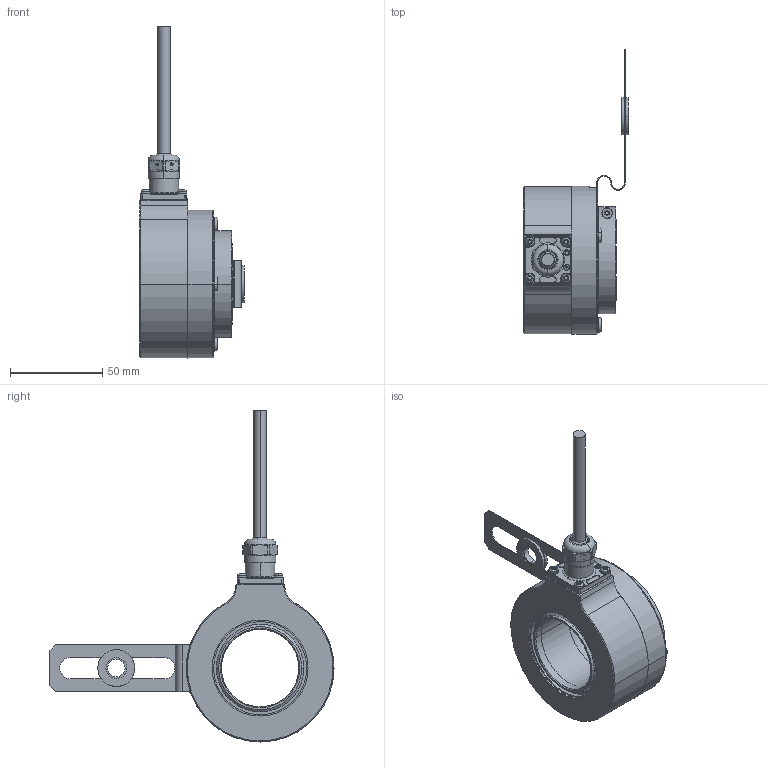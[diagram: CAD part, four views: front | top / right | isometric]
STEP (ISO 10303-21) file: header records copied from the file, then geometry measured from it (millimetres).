
FILE_DESCRIPTION (( 'STEP AP203' ), '1' );
FILE_NAME ('K80I.OXX.XXXXX.XH1D842.6XR31.XXXX.step', '2025-12-09T09:10:30', ( '' ), ( '' ), 'SwSTEP 2.0', 'SolidWorks 2021', '' );
FILE_SCHEMA (( 'CONFIG_CONTROL_DESIGN' ));
Length unit declared in the file: millimetre
Products named in the file (1): K80I.OXX.XXXXX.XH1D842.6XR31.XXXX
Bounding box: 56.5 x 154.07 x 180.07 mm (x, y, z)
Volume: 173385.1 mm3; surface area: 71590.3 mm2
Topology: 10 solids, 10 shells, 750 faces, 1918 edges, 1205 vertices
Faces by surface type: cylinder 351, plane 238, cone 66, bspline 46, torus 33, sphere 16
Entity records: 25580 total; most frequent: CARTESIAN_POINT 7180, DIRECTION 3961, ORIENTED_EDGE 3820, EDGE_CURVE 1910, AXIS2_PLACEMENT_3D 1548, VERTEX_POINT 1205, LINE 865, VECTOR 865
